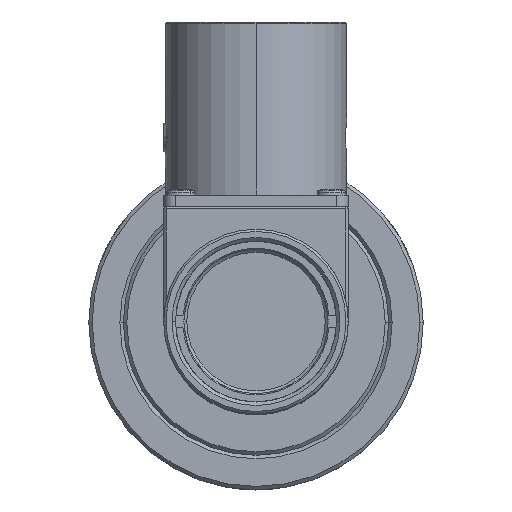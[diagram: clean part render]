
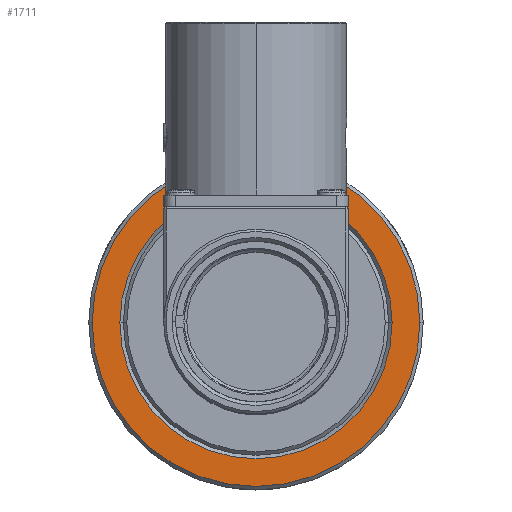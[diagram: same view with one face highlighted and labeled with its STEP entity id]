
A CAD part, top view. The second image highlights one B-rep face of the part: STEP entity #1711.
In plain terms, the highlighted planar face has unit normal (0, 0, 1).
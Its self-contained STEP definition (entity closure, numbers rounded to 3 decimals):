
#1621 = EDGE_CURVE ( 'NONE', #2807, #2805, #5995, .T. ) ;
#1703 = EDGE_CURVE ( 'NONE', #2719, #2847, #6082, .T. ) ;
#1706 = ORIENTED_EDGE ( 'NONE', *, *, #2792, .T. ) ;
#1709 = EDGE_LOOP ( 'NONE', ( #1706, #1767 ) ) ;
#1711 = ADVANCED_FACE ( 'NONE', ( #6125, #6121 ), #6120, .F. ) ;
#1766 = ORIENTED_EDGE ( 'NONE', *, *, #1621, .T. ) ;
#1767 = ORIENTED_EDGE ( 'NONE', *, *, #1703, .T. ) ;
#1768 = ORIENTED_EDGE ( 'NONE', *, *, #2852, .T. ) ;
#1769 = EDGE_LOOP ( 'NONE', ( #1766, #1768 ) ) ;
#2719 = VERTEX_POINT ( 'NONE', #8842 ) ;
#2792 = EDGE_CURVE ( 'NONE', #2847, #2719, #8978, .T. ) ;
#2805 = VERTEX_POINT ( 'NONE', #9011 ) ;
#2807 = VERTEX_POINT ( 'NONE', #9014 ) ;
#2847 = VERTEX_POINT ( 'NONE', #9065 ) ;
#2852 = EDGE_CURVE ( 'NONE', #2805, #2807, #9103, .T. ) ;
#5990 = DIRECTION ( 'NONE',  ( -1., 0., 0. ) ) ;
#5991 = DIRECTION ( 'NONE',  ( 0., 0., 1. ) ) ;
#5992 = CARTESIAN_POINT ( 'NONE',  ( 0., 0., -20.44 ) ) ;
#5994 = AXIS2_PLACEMENT_3D ( 'NONE', #5992, #5991, #5990 ) ;
#5995 = CIRCLE ( 'NONE', #5994, 14.2 ) ;
#6069 = DIRECTION ( 'NONE',  ( -1., 0., 0. ) ) ;
#6070 = DIRECTION ( 'NONE',  ( 0., 0., -1. ) ) ;
#6080 = CARTESIAN_POINT ( 'NONE',  ( 0., 0., -20.44 ) ) ;
#6081 = AXIS2_PLACEMENT_3D ( 'NONE', #6080, #6070, #6069 ) ;
#6082 = CIRCLE ( 'NONE', #6081, 11.8 ) ;
#6116 = CARTESIAN_POINT ( 'NONE',  ( 0., 11.5, -20.44 ) ) ;
#6120 = PLANE ( 'NONE',  #6124 ) ;
#6121 = FACE_OUTER_BOUND ( 'NONE', #1769, .T. ) ;
#6124 = AXIS2_PLACEMENT_3D ( 'NONE', #6116, #6129, #6128 ) ;
#6125 = FACE_BOUND ( 'NONE', #1709, .T. ) ;
#6128 = DIRECTION ( 'NONE',  ( -1., 0., 0. ) ) ;
#6129 = DIRECTION ( 'NONE',  ( 0., 0., -1. ) ) ;
#8842 = CARTESIAN_POINT ( 'NONE',  ( -11.8, 0., -20.44 ) ) ;
#8978 = CIRCLE ( 'NONE', #8983, 11.8 ) ;
#8983 = AXIS2_PLACEMENT_3D ( 'NONE', #9023, #9022, #9021 ) ;
#9011 = CARTESIAN_POINT ( 'NONE',  ( 14.2, 0., -20.44 ) ) ;
#9014 = CARTESIAN_POINT ( 'NONE',  ( -14.2, 0., -20.44 ) ) ;
#9021 = DIRECTION ( 'NONE',  ( -1., 0., 0. ) ) ;
#9022 = DIRECTION ( 'NONE',  ( 0., 0., -1. ) ) ;
#9023 = CARTESIAN_POINT ( 'NONE',  ( 0., 0., -20.44 ) ) ;
#9065 = CARTESIAN_POINT ( 'NONE',  ( 11.8, 0., -20.44 ) ) ;
#9096 = DIRECTION ( 'NONE',  ( -1., 0., 0. ) ) ;
#9097 = DIRECTION ( 'NONE',  ( 0., 0., 1. ) ) ;
#9098 = AXIS2_PLACEMENT_3D ( 'NONE', #9109, #9097, #9096 ) ;
#9103 = CIRCLE ( 'NONE', #9098, 14.2 ) ;
#9109 = CARTESIAN_POINT ( 'NONE',  ( 0., 0., -20.44 ) ) ;
